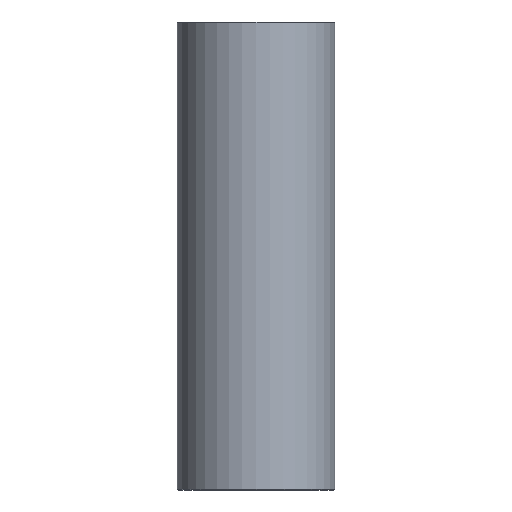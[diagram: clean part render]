
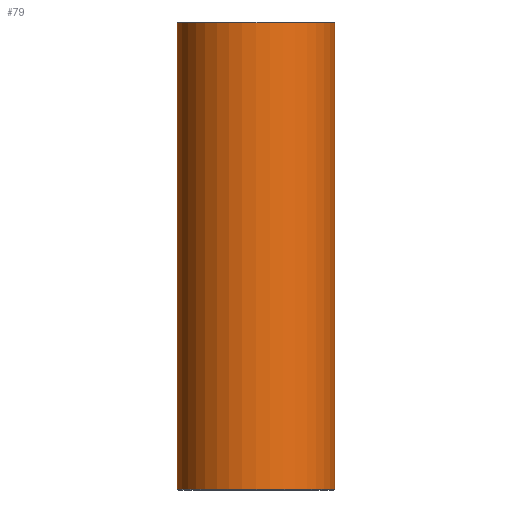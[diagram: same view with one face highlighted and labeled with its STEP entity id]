
A CAD part, front view. The second image highlights one B-rep face of the part: STEP entity #79.
In plain terms, the highlighted cylindrical face has radius 16 mm (diameter 32 mm), a full revolution.
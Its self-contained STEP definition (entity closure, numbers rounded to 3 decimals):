
#79=ADVANCED_FACE('',(#96,#97),#98,.T.);
#96=FACE_OUTER_BOUND('',#120,.T.);
#97=FACE_OUTER_BOUND('',#121,.T.);
#98=CYLINDRICAL_SURFACE('',#122,16.0);
#120=EDGE_LOOP('',(#152));
#121=EDGE_LOOP('',(#153));
#122=AXIS2_PLACEMENT_3D('',#154,#155,#156);
#152=ORIENTED_EDGE('',*,*,#178,.T.);
#153=ORIENTED_EDGE('',*,*,#177,.T.);
#154=CARTESIAN_POINT('',(0.0,0.0,95.0));
#155=DIRECTION('',(0.0,0.0,-1.0));
#156=DIRECTION('',(-1.0,0.0,0.0));
#177=EDGE_CURVE('',#190,#190,#191,.T.);
#178=EDGE_CURVE('',#192,#192,#193,.F.);
#190=VERTEX_POINT('',#206);
#191=CIRCLE('',#207,16.0);
#192=VERTEX_POINT('',#208);
#193=CIRCLE('',#209,16.0);
#206=CARTESIAN_POINT('',(16.0,0.0,0.2));
#207=AXIS2_PLACEMENT_3D('',#227,#228,#229);
#208=CARTESIAN_POINT('',(16.0,0.,94.8));
#209=AXIS2_PLACEMENT_3D('',#230,#231,#232);
#227=CARTESIAN_POINT('',(0.0,0.0,0.2));
#228=DIRECTION('',(0.0,0.0,1.0));
#229=DIRECTION('',(1.0,0.0,0.0));
#230=CARTESIAN_POINT('',(0.0,0.0,94.8));
#231=DIRECTION('',(0.0,0.0,1.0));
#232=DIRECTION('',(1.0,0.0,0.0));
